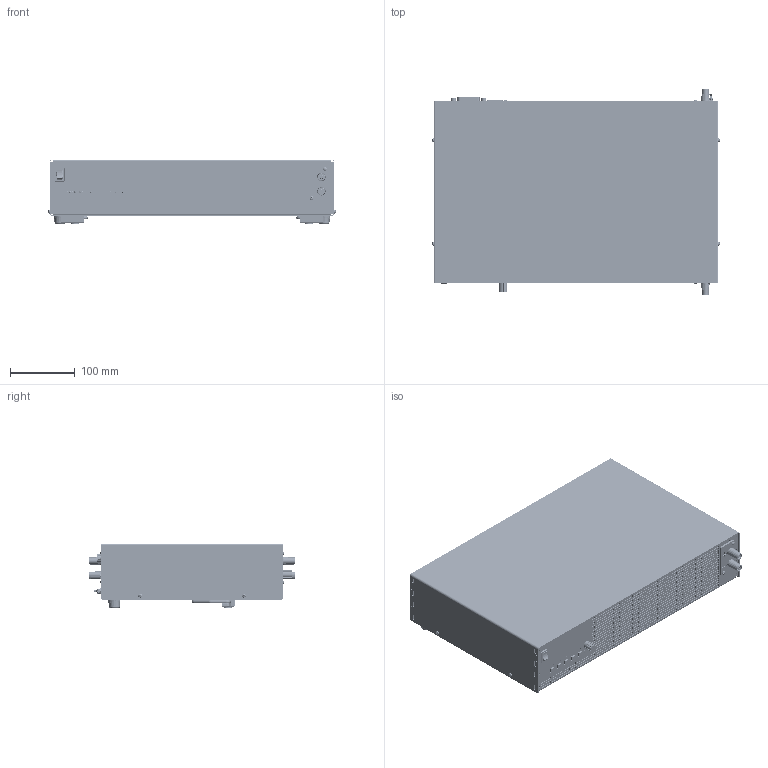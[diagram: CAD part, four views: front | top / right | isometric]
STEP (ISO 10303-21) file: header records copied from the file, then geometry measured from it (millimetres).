
FILE_DESCRIPTION(('STEP AP214'),'1');
FILE_NAME('PLA_M13_SBU4_32_SBU4_32_3D_02.step','2024-08-19T14:05:17',(' '),(' '),'Spatial InterOp 3D',' ',' ');
FILE_SCHEMA(('AUTOMOTIVE_DESIGN { 1 0 10303 214 1 1 1 1 }'));
Length unit declared in the file: millimetre
Products named in the file (7): PLA_M13_SBU4_32_SBU4_32_3D_02; *U200; *U201; *U202; *U203; *U204; AutoCreatedBlock_1BC
Assembly tree (10 placements, depth 2):
  PLA_M13_SBU4_32_SBU4_32_3D_02
    *U200  x2
    *U201
    *U202  x2
    *U203  x2
    *U204  x2
    AutoCreatedBlock_1BC
Bounding box: 444.06 x 319.5 x 100.18 mm (x, y, z)
Volume: 10146014.2 mm3; surface area: 1164301.2 mm2
Topology: 126 solids, 129 shells, 11106 faces, 29775 edges, 19045 vertices
Faces by surface type: plane 5665, cone 2500, cylinder 2369, bspline 248, torus 226, sphere 96, extrusion 2
Entity records: 446780 total; most frequent: CARTESIAN_POINT 76731, ORIENTED_EDGE 58342, DIRECTION 58281, EDGE_CURVE 29171, VECTOR 20145, LINE 20143, AXIS2_PLACEMENT_3D 19068, VERTEX_POINT 18436
